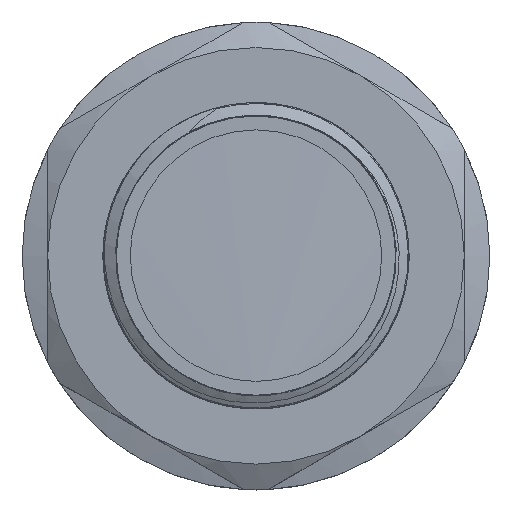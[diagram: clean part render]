
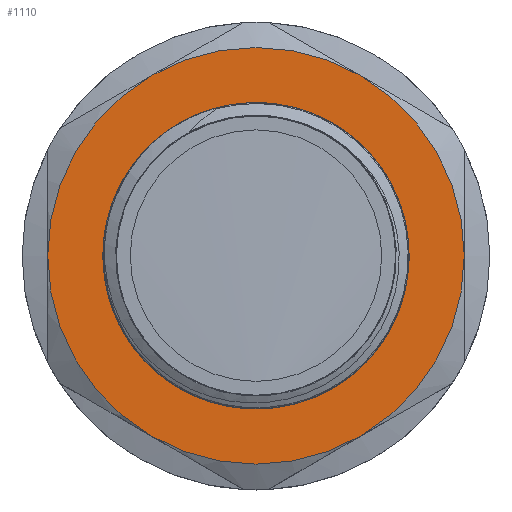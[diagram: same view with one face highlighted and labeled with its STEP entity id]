
A CAD part, top view. The second image highlights one B-rep face of the part: STEP entity #1110.
In plain terms, the highlighted planar face has unit normal (0, 0, 1).
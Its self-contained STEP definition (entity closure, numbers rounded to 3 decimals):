
#101=FACE_BOUND('',#299,.T.);
#206=PLANE('',#1221);
#234=FACE_OUTER_BOUND('',#298,.T.);
#298=EDGE_LOOP('',(#835,#836,#837,#838,#839,#840));
#299=EDGE_LOOP('',(#841,#842));
#352=CIRCLE('',#1179,26.5);
#354=CIRCLE('',#1182,26.5);
#355=CIRCLE('',#1184,26.5);
#357=CIRCLE('',#1187,26.5);
#359=CIRCLE('',#1190,26.5);
#361=CIRCLE('',#1193,26.5);
#363=CIRCLE('',#1199,17.763);
#366=CIRCLE('',#1202,17.763);
#424=VERTEX_POINT('',#1518);
#427=VERTEX_POINT('',#1526);
#429=VERTEX_POINT('',#1533);
#432=VERTEX_POINT('',#1548);
#435=VERTEX_POINT('',#1560);
#438=VERTEX_POINT('',#1572);
#451=VERTEX_POINT('',#1627);
#452=VERTEX_POINT('',#1628);
#548=EDGE_CURVE('',#424,#427,#352,.T.);
#552=EDGE_CURVE('',#429,#424,#354,.T.);
#554=EDGE_CURVE('',#432,#429,#355,.T.);
#558=EDGE_CURVE('',#435,#432,#357,.T.);
#562=EDGE_CURVE('',#438,#435,#359,.T.);
#566=EDGE_CURVE('',#427,#438,#361,.T.);
#581=EDGE_CURVE('',#451,#452,#363,.T.);
#585=EDGE_CURVE('',#452,#451,#366,.T.);
#835=ORIENTED_EDGE('',*,*,#566,.T.);
#836=ORIENTED_EDGE('',*,*,#562,.T.);
#837=ORIENTED_EDGE('',*,*,#558,.T.);
#838=ORIENTED_EDGE('',*,*,#554,.T.);
#839=ORIENTED_EDGE('',*,*,#552,.T.);
#840=ORIENTED_EDGE('',*,*,#548,.T.);
#841=ORIENTED_EDGE('',*,*,#581,.F.);
#842=ORIENTED_EDGE('',*,*,#585,.F.);
#1110=ADVANCED_FACE('',(#234,#101),#206,.T.);
#1179=AXIS2_PLACEMENT_3D('',#1530,#1285,#1286);
#1182=AXIS2_PLACEMENT_3D('',#1542,#1291,#1292);
#1184=AXIS2_PLACEMENT_3D('',#1549,#1295,#1296);
#1187=AXIS2_PLACEMENT_3D('',#1561,#1301,#1302);
#1190=AXIS2_PLACEMENT_3D('',#1573,#1307,#1308);
#1193=AXIS2_PLACEMENT_3D('',#1584,#1313,#1314);
#1199=AXIS2_PLACEMENT_3D('',#1629,#1331,#1332);
#1202=AXIS2_PLACEMENT_3D('',#1635,#1338,#1339);
#1221=AXIS2_PLACEMENT_3D('',#1690,#1383,#1384);
#1285=DIRECTION('center_axis',(0.,0.,1.));
#1286=DIRECTION('ref_axis',(0.,1.,0.));
#1291=DIRECTION('center_axis',(0.,0.,1.));
#1292=DIRECTION('ref_axis',(0.,1.,0.));
#1295=DIRECTION('center_axis',(0.,0.,1.));
#1296=DIRECTION('ref_axis',(0.,1.,0.));
#1301=DIRECTION('center_axis',(0.,0.,1.));
#1302=DIRECTION('ref_axis',(0.,1.,0.));
#1307=DIRECTION('center_axis',(0.,0.,1.));
#1308=DIRECTION('ref_axis',(0.,1.,0.));
#1313=DIRECTION('center_axis',(0.,0.,1.));
#1314=DIRECTION('ref_axis',(0.,1.,0.));
#1331=DIRECTION('center_axis',(0.,0.,1.));
#1332=DIRECTION('ref_axis',(1.,0.,0.));
#1338=DIRECTION('center_axis',(0.,0.,1.));
#1339=DIRECTION('ref_axis',(1.,0.,0.));
#1383=DIRECTION('center_axis',(0.,0.,1.));
#1384=DIRECTION('ref_axis',(1.,0.,0.));
#1518=CARTESIAN_POINT('',(13.25,22.95,22.5));
#1526=CARTESIAN_POINT('',(-13.25,22.95,22.5));
#1530=CARTESIAN_POINT('Origin',(0.,0.,22.5));
#1533=CARTESIAN_POINT('',(26.5,0.,22.5));
#1542=CARTESIAN_POINT('Origin',(0.,0.,22.5));
#1548=CARTESIAN_POINT('',(13.25,-22.95,22.5));
#1549=CARTESIAN_POINT('Origin',(0.,0.,22.5));
#1560=CARTESIAN_POINT('',(-13.25,-22.95,22.5));
#1561=CARTESIAN_POINT('Origin',(0.,0.,22.5));
#1572=CARTESIAN_POINT('',(-26.5,0.,22.5));
#1573=CARTESIAN_POINT('Origin',(0.,0.,22.5));
#1584=CARTESIAN_POINT('Origin',(0.,0.,22.5));
#1627=CARTESIAN_POINT('',(0.,17.763,22.5));
#1628=CARTESIAN_POINT('',(0.,-17.763,22.5));
#1629=CARTESIAN_POINT('Origin',(0.,0.,22.5));
#1635=CARTESIAN_POINT('Origin',(0.,0.,22.5));
#1690=CARTESIAN_POINT('Origin',(0.,-19.475,22.5));
